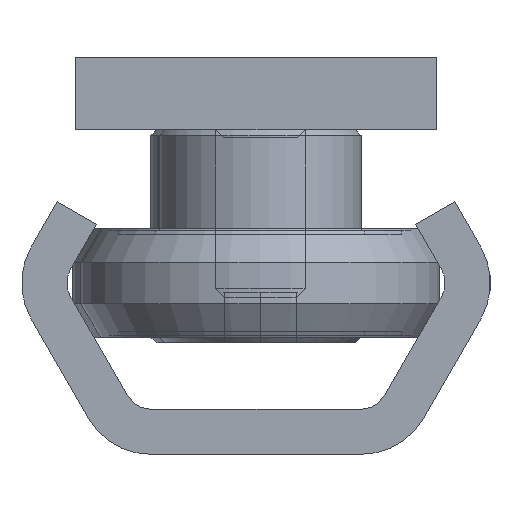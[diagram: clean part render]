
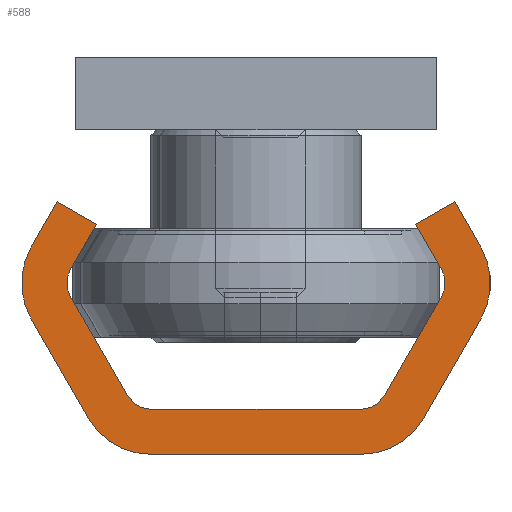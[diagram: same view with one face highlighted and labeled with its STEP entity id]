
A CAD part, left-side view. The second image highlights one B-rep face of the part: STEP entity #588.
In plain terms, the highlighted planar face has unit normal (-1, 0, 0).
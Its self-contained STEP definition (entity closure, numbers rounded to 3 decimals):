
#588 = ADVANCED_FACE( '', ( #1255 ), #1256, .F. );
#1255 = FACE_OUTER_BOUND( '', #2165, .T. );
#1256 = PLANE( '', #2166 );
#2165 = EDGE_LOOP( '', ( #3368, #3369, #3370, #3371, #3372, #3373, #3374, #3375, #3376, #3377, #3378, #3379, #3380, #3381, #3382, #3383, #3384, #3385, #3386, #3387 ) );
#2166 = AXIS2_PLACEMENT_3D( '', #3388, #3389, #3390 );
#3368 = ORIENTED_EDGE( '', *, *, #4217, .F. );
#3369 = ORIENTED_EDGE( '', *, *, #4202, .F. );
#3370 = ORIENTED_EDGE( '', *, *, #4226, .F. );
#3371 = ORIENTED_EDGE( '', *, *, #4119, .F. );
#3372 = ORIENTED_EDGE( '', *, *, #4085, .F. );
#3373 = ORIENTED_EDGE( '', *, *, #4227, .F. );
#3374 = ORIENTED_EDGE( '', *, *, #4228, .F. );
#3375 = ORIENTED_EDGE( '', *, *, #3803, .T. );
#3376 = ORIENTED_EDGE( '', *, *, #4229, .F. );
#3377 = ORIENTED_EDGE( '', *, *, #4230, .T. );
#3378 = ORIENTED_EDGE( '', *, *, #4231, .F. );
#3379 = ORIENTED_EDGE( '', *, *, #3873, .T. );
#3380 = ORIENTED_EDGE( '', *, *, #4149, .F. );
#3381 = ORIENTED_EDGE( '', *, *, #3926, .T. );
#3382 = ORIENTED_EDGE( '', *, *, #4232, .F. );
#3383 = ORIENTED_EDGE( '', *, *, #4233, .F. );
#3384 = ORIENTED_EDGE( '', *, *, #4079, .F. );
#3385 = ORIENTED_EDGE( '', *, *, #4234, .F. );
#3386 = ORIENTED_EDGE( '', *, *, #4115, .F. );
#3387 = ORIENTED_EDGE( '', *, *, #4235, .F. );
#3388 = CARTESIAN_POINT( '', ( 0., -5.825, -4. ) );
#3389 = DIRECTION( '', ( 1., 0., 0. ) );
#3390 = DIRECTION( '', ( 0., 0., -1. ) );
#3803 = EDGE_CURVE( '', #4318, #4319, #4320, .T. );
#3873 = EDGE_CURVE( '', #4448, #4449, #4450, .T. );
#3926 = EDGE_CURVE( '', #4536, #4537, #4538, .T. );
#4079 = EDGE_CURVE( '', #4771, #4772, #4773, .T. );
#4085 = EDGE_CURVE( '', #4780, #4781, #4782, .T. );
#4115 = EDGE_CURVE( '', #4823, #4824, #4825, .T. );
#4119 = EDGE_CURVE( '', #4781, #4829, #4830, .T. );
#4149 = EDGE_CURVE( '', #4536, #4449, #4870, .T. );
#4202 = EDGE_CURVE( '', #4939, #4940, #4941, .T. );
#4217 = EDGE_CURVE( '', #4940, #4967, #4968, .T. );
#4226 = EDGE_CURVE( '', #4829, #4939, #4979, .T. );
#4227 = EDGE_CURVE( '', #4980, #4780, #4981, .T. );
#4228 = EDGE_CURVE( '', #4318, #4980, #4982, .T. );
#4229 = EDGE_CURVE( '', #4983, #4319, #4984, .T. );
#4230 = EDGE_CURVE( '', #4983, #4985, #4986, .T. );
#4231 = EDGE_CURVE( '', #4448, #4985, #4987, .T. );
#4232 = EDGE_CURVE( '', #4988, #4537, #4989, .T. );
#4233 = EDGE_CURVE( '', #4772, #4988, #4990, .T. );
#4234 = EDGE_CURVE( '', #4824, #4771, #4991, .T. );
#4235 = EDGE_CURVE( '', #4967, #4823, #4992, .T. );
#4318 = VERTEX_POINT( '', #5090 );
#4319 = VERTEX_POINT( '', #5091 );
#4320 = CIRCLE( '', #5092, 1.5 );
#4448 = VERTEX_POINT( '', #5248 );
#4449 = VERTEX_POINT( '', #5249 );
#4450 = CIRCLE( '', #5250, 1.5 );
#4536 = VERTEX_POINT( '', #5346 );
#4537 = VERTEX_POINT( '', #5347 );
#4538 = CIRCLE( '', #5348, 1.5 );
#4771 = VERTEX_POINT( '', #5617 );
#4772 = VERTEX_POINT( '', #5618 );
#4773 = LINE( '', #5619, #5620 );
#4780 = VERTEX_POINT( '', #5629 );
#4781 = VERTEX_POINT( '', #5630 );
#4782 = LINE( '', #5631, #5632 );
#4823 = VERTEX_POINT( '', #5679 );
#4824 = VERTEX_POINT( '', #5680 );
#4825 = LINE( '', #5681, #5682 );
#4829 = VERTEX_POINT( '', #5688 );
#4830 = CIRCLE( '', #5689, 4. );
#4870 = LINE( '', #5741, #5742 );
#4939 = VERTEX_POINT( '', #5817 );
#4940 = VERTEX_POINT( '', #5818 );
#4941 = CIRCLE( '', #5819, 4. );
#4967 = VERTEX_POINT( '', #5847 );
#4968 = LINE( '', #5848, #5849 );
#4979 = LINE( '', #5862, #5863 );
#4980 = VERTEX_POINT( '', #5864 );
#4981 = LINE( '', #5865, #5866 );
#4982 = LINE( '', #5867, #5868 );
#4983 = VERTEX_POINT( '', #5869 );
#4984 = LINE( '', #5870, #5871 );
#4985 = VERTEX_POINT( '', #5872 );
#4986 = CIRCLE( '', #5873, 1.5 );
#4987 = LINE( '', #5874, #5875 );
#4988 = VERTEX_POINT( '', #5876 );
#4989 = LINE( '', #5877, #5878 );
#4990 = LINE( '', #5879, #5880 );
#4991 = CIRCLE( '', #5881, 4. );
#4992 = CIRCLE( '', #5882, 4. );
#5090 = CARTESIAN_POINT( '', ( 0., 10.299, -10.25 ) );
#5091 = CARTESIAN_POINT( '', ( 0., 10.299, -8.75 ) );
#5092 = AXIS2_PLACEMENT_3D( '', #5989, #5990, #5991 );
#5248 = CARTESIAN_POINT( '', ( 0., -5.825, -2.5 ) );
#5249 = CARTESIAN_POINT( '', ( 0., -7.124, -3.25 ) );
#5250 = AXIS2_PLACEMENT_3D( '', #6116, #6117, #6118 );
#5346 = CARTESIAN_POINT( '', ( 0., -10.299, -8.75 ) );
#5347 = CARTESIAN_POINT( '', ( 0., -10.299, -10.25 ) );
#5348 = AXIS2_PLACEMENT_3D( '', #6204, #6205, #6206 );
#5617 = CARTESIAN_POINT( '', ( 0., -12.464, -11.5 ) );
#5618 = CARTESIAN_POINT( '', ( 0., -11.021, -14. ) );
#5619 = CARTESIAN_POINT( '', ( 0., -12.464, -11.5 ) );
#5620 = VECTOR( '', #6435, 1000. );
#5629 = CARTESIAN_POINT( '', ( 0., 11.021, -14. ) );
#5630 = CARTESIAN_POINT( '', ( 0., 12.464, -11.5 ) );
#5631 = CARTESIAN_POINT( '', ( 0., 11.021, -14. ) );
#5632 = VECTOR( '', #6441, 1000. );
#5679 = CARTESIAN_POINT( '', ( 0., -9.289, -2. ) );
#5680 = CARTESIAN_POINT( '', ( 0., -12.464, -7.5 ) );
#5681 = CARTESIAN_POINT( '', ( 0., -9.289, -2. ) );
#5682 = VECTOR( '', #6484, 1000. );
#5688 = CARTESIAN_POINT( '', ( 0., 12.464, -7.5 ) );
#5689 = AXIS2_PLACEMENT_3D( '', #6487, #6488, #6489 );
#5741 = CARTESIAN_POINT( '', ( 0., -10.299, -8.75 ) );
#5742 = VECTOR( '', #6520, 1000. );
#5817 = CARTESIAN_POINT( '', ( 0., 9.289, -2. ) );
#5818 = CARTESIAN_POINT( '', ( 0., 5.825, 0. ) );
#5819 = AXIS2_PLACEMENT_3D( '', #6602, #6603, #6604 );
#5847 = CARTESIAN_POINT( '', ( 0., -5.825, 0. ) );
#5848 = CARTESIAN_POINT( '', ( 0., 5.825, 0. ) );
#5849 = VECTOR( '', #6640, 1000. );
#5862 = CARTESIAN_POINT( '', ( 0., 12.464, -7.5 ) );
#5863 = VECTOR( '', #6649, 1000. );
#5864 = CARTESIAN_POINT( '', ( 0., 8.856, -12.75 ) );
#5865 = CARTESIAN_POINT( '', ( 0., 8.856, -12.75 ) );
#5866 = VECTOR( '', #6650, 1000. );
#5867 = CARTESIAN_POINT( '', ( 0., 10.299, -10.25 ) );
#5868 = VECTOR( '', #6651, 1000. );
#5869 = CARTESIAN_POINT( '', ( 0., 7.124, -3.25 ) );
#5870 = CARTESIAN_POINT( '', ( 0., 7.124, -3.25 ) );
#5871 = VECTOR( '', #6652, 1000. );
#5872 = CARTESIAN_POINT( '', ( 0., 5.825, -2.5 ) );
#5873 = AXIS2_PLACEMENT_3D( '', #6653, #6654, #6655 );
#5874 = CARTESIAN_POINT( '', ( 0., -5.825, -2.5 ) );
#5875 = VECTOR( '', #6656, 1000. );
#5876 = CARTESIAN_POINT( '', ( 0., -8.856, -12.75 ) );
#5877 = CARTESIAN_POINT( '', ( 0., -8.856, -12.75 ) );
#5878 = VECTOR( '', #6657, 1000. );
#5879 = CARTESIAN_POINT( '', ( 0., -11.021, -14. ) );
#5880 = VECTOR( '', #6658, 1000. );
#5881 = AXIS2_PLACEMENT_3D( '', #6659, #6660, #6661 );
#5882 = AXIS2_PLACEMENT_3D( '', #6662, #6663, #6664 );
#5989 = CARTESIAN_POINT( '', ( 0., 9., -9.5 ) );
#5990 = DIRECTION( '', ( 1., 0., 0. ) );
#5991 = DIRECTION( '', ( 0., 0., -1. ) );
#6116 = CARTESIAN_POINT( '', ( 0., -5.825, -4. ) );
#6117 = DIRECTION( '', ( 1., 0., 0. ) );
#6118 = DIRECTION( '', ( 0., 0., -1. ) );
#6204 = CARTESIAN_POINT( '', ( 0., -9., -9.5 ) );
#6205 = DIRECTION( '', ( 1., 0., 0. ) );
#6206 = DIRECTION( '', ( 0., 0., -1. ) );
#6435 = DIRECTION( '', ( 0., 0.5, -0.866 ) );
#6441 = DIRECTION( '', ( 0., 0.5, 0.866 ) );
#6484 = DIRECTION( '', ( 0., -0.5, -0.866 ) );
#6487 = CARTESIAN_POINT( '', ( 0., 9., -9.5 ) );
#6488 = DIRECTION( '', ( 1., 0., 0. ) );
#6489 = DIRECTION( '', ( 0., 0., -1. ) );
#6520 = DIRECTION( '', ( 0., 0.5, 0.866 ) );
#6602 = CARTESIAN_POINT( '', ( 0., 5.825, -4. ) );
#6603 = DIRECTION( '', ( 1., 0., 0. ) );
#6604 = DIRECTION( '', ( 0., 0., -1. ) );
#6640 = DIRECTION( '', ( 0., -1., 0. ) );
#6649 = DIRECTION( '', ( 0., -0.5, 0.866 ) );
#6650 = DIRECTION( '', ( 0., 0.866, -0.5 ) );
#6651 = DIRECTION( '', ( 0., -0.5, -0.866 ) );
#6652 = DIRECTION( '', ( 0., 0.5, -0.866 ) );
#6653 = CARTESIAN_POINT( '', ( 0., 5.825, -4. ) );
#6654 = DIRECTION( '', ( 1., 0., 0. ) );
#6655 = DIRECTION( '', ( 0., 0., -1. ) );
#6656 = DIRECTION( '', ( 0., 1., 0. ) );
#6657 = DIRECTION( '', ( 0., -0.5, 0.866 ) );
#6658 = DIRECTION( '', ( 0., 0.866, 0.5 ) );
#6659 = CARTESIAN_POINT( '', ( 0., -9., -9.5 ) );
#6660 = DIRECTION( '', ( 1., 0., 0. ) );
#6661 = DIRECTION( '', ( 0., 0., -1. ) );
#6662 = CARTESIAN_POINT( '', ( 0., -5.825, -4. ) );
#6663 = DIRECTION( '', ( 1., 0., 0. ) );
#6664 = DIRECTION( '', ( 0., 0., -1. ) );
